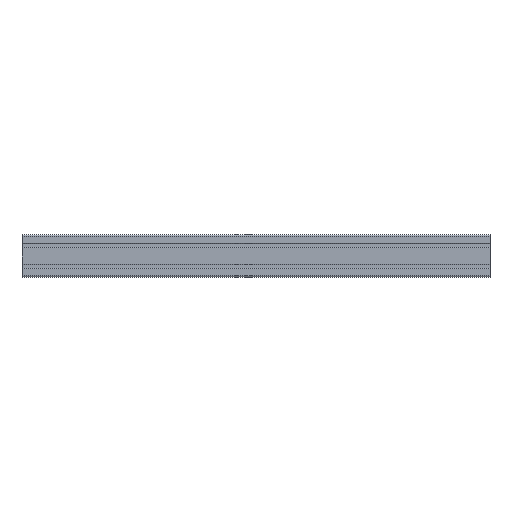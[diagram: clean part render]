
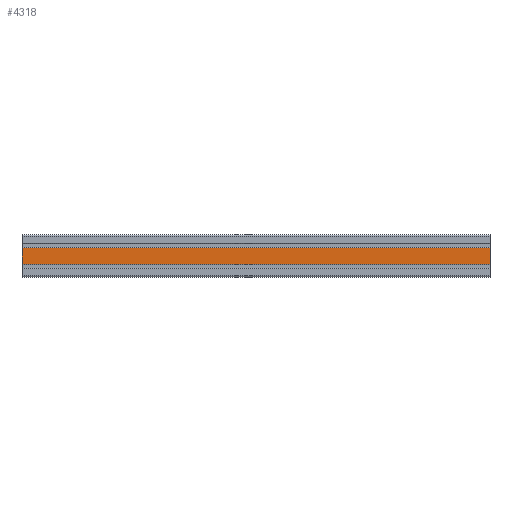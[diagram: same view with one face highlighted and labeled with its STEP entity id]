
A CAD part, top view. The second image highlights one B-rep face of the part: STEP entity #4318.
In plain terms, the highlighted planar face has unit normal (0, 0, 1).
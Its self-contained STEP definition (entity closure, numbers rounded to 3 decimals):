
#187 = CARTESIAN_POINT ( 'NONE',  ( 0., -18.1, 22.5 ) ) ;
#796 = AXIS2_PLACEMENT_3D ( 'NONE', #5800, #3083, #1448 ) ;
#1016 = LINE ( 'NONE', #3236, #2207 ) ;
#1117 = DIRECTION ( 'NONE',  ( -1., 0., 0. ) ) ;
#1213 = ORIENTED_EDGE ( 'NONE', *, *, #7167, .T. ) ;
#1223 = CARTESIAN_POINT ( 'NONE',  ( 0., 18.1, 22.5 ) ) ;
#1243 = DIRECTION ( 'NONE',  ( 0., -1., 0. ) ) ;
#1418 = VECTOR ( 'NONE', #1243, 1000. ) ;
#1430 = VERTEX_POINT ( 'NONE', #2038 ) ;
#1448 = DIRECTION ( 'NONE',  ( 0., 1., 0. ) ) ;
#1627 = LINE ( 'NONE', #7135, #5437 ) ;
#1923 = EDGE_CURVE ( 'NONE', #1430, #2353, #6217, .T. ) ;
#1979 = LINE ( 'NONE', #3237, #6536 ) ;
#2038 = CARTESIAN_POINT ( 'NONE',  ( 1000., 18.1, 22.5 ) ) ;
#2057 = DIRECTION ( 'NONE',  ( 0., -1., 0. ) ) ;
#2207 = VECTOR ( 'NONE', #2057, 1000. ) ;
#2302 = VERTEX_POINT ( 'NONE', #1223 ) ;
#2353 = VERTEX_POINT ( 'NONE', #6592 ) ;
#2415 = FACE_OUTER_BOUND ( 'NONE', #4960, .T. ) ;
#2557 = ORIENTED_EDGE ( 'NONE', *, *, #5620, .T. ) ;
#3083 = DIRECTION ( 'NONE',  ( 0., 0., -1. ) ) ;
#3236 = CARTESIAN_POINT ( 'NONE',  ( 0., 18.1, 22.5 ) ) ;
#3237 = CARTESIAN_POINT ( 'NONE',  ( 1000., 18.1, 22.5 ) ) ;
#3415 = ORIENTED_EDGE ( 'NONE', *, *, #4464, .F. ) ;
#3589 = PLANE ( 'NONE',  #796 ) ;
#4138 = VERTEX_POINT ( 'NONE', #187 ) ;
#4196 = DIRECTION ( 'NONE',  ( -1., 0., 0. ) ) ;
#4318 = ADVANCED_FACE ( 'NONE', ( #2415 ), #3589, .F. ) ;
#4464 = EDGE_CURVE ( 'NONE', #2353, #4138, #1627, .T. ) ;
#4960 = EDGE_LOOP ( 'NONE', ( #2557, #3415, #6462, #1213 ) ) ;
#5437 = VECTOR ( 'NONE', #1117, 1000. ) ;
#5620 = EDGE_CURVE ( 'NONE', #2302, #4138, #1016, .T. ) ;
#5800 = CARTESIAN_POINT ( 'NONE',  ( 1000., 18.1, 22.5 ) ) ;
#6217 = LINE ( 'NONE', #6817, #1418 ) ;
#6462 = ORIENTED_EDGE ( 'NONE', *, *, #1923, .F. ) ;
#6536 = VECTOR ( 'NONE', #4196, 1000. ) ;
#6592 = CARTESIAN_POINT ( 'NONE',  ( 1000., -18.1, 22.5 ) ) ;
#6817 = CARTESIAN_POINT ( 'NONE',  ( 1000., 18.1, 22.5 ) ) ;
#7135 = CARTESIAN_POINT ( 'NONE',  ( 1000., -18.1, 22.5 ) ) ;
#7167 = EDGE_CURVE ( 'NONE', #1430, #2302, #1979, .T. ) ;
